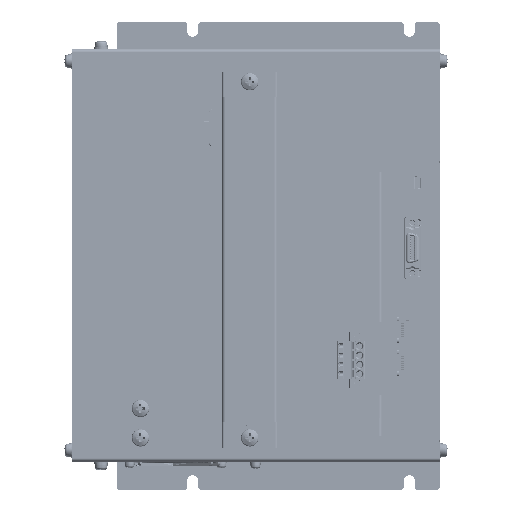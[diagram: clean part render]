
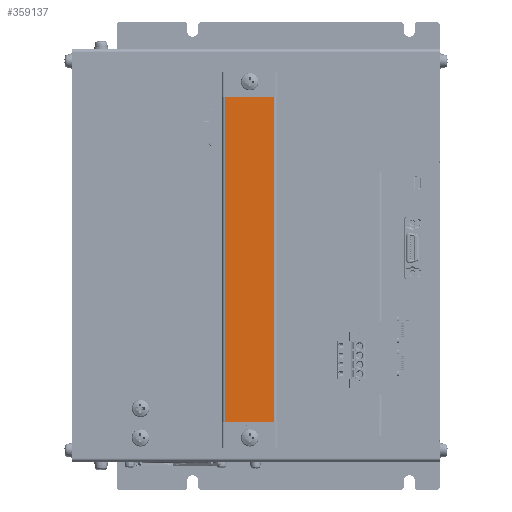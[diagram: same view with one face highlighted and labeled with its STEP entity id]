
A CAD part, top view. The second image highlights one B-rep face of the part: STEP entity #359137.
In plain terms, the highlighted planar face has unit normal (0, 0, 1).
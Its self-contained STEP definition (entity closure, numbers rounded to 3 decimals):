
#8743 = EDGE_CURVE ( 'NONE', #175309, #256099, #35312, .T. ) ;
#12718 = CARTESIAN_POINT ( 'NONE',  ( -98.925, -75.562, 394. ) ) ;
#35312 = LINE ( 'NONE', #12718, #272513 ) ;
#36958 = CARTESIAN_POINT ( 'NONE',  ( -98.925, -75.562, 394. ) ) ;
#38841 = ORIENTED_EDGE ( 'NONE', *, *, #62368, .T. ) ;
#39092 = PLANE ( 'NONE',  #118358 ) ;
#42128 = VECTOR ( 'NONE', #149940, 1000. ) ;
#62368 = EDGE_CURVE ( 'NONE', #102245, #276919, #314173, .T. ) ;
#62828 = DIRECTION ( 'NONE',  ( 0., -1., 0. ) ) ;
#62930 = DIRECTION ( 'NONE',  ( -1., 0., 0. ) ) ;
#94399 = DIRECTION ( 'NONE',  ( 0., -1., 0. ) ) ;
#102245 = VERTEX_POINT ( 'NONE', #231900 ) ;
#115692 = CARTESIAN_POINT ( 'NONE',  ( -125.725, -75.562, 394. ) ) ;
#118358 = AXIS2_PLACEMENT_3D ( 'NONE', #261341, #204877, #94399 ) ;
#149940 = DIRECTION ( 'NONE',  ( 1., 0., 0. ) ) ;
#153892 = DIRECTION ( 'NONE',  ( 0., 1., 0. ) ) ;
#160455 = VECTOR ( 'NONE', #62828, 1000. ) ;
#171166 = EDGE_LOOP ( 'NONE', ( #38841, #279498, #210668, #215022 ) ) ;
#175309 = VERTEX_POINT ( 'NONE', #294743 ) ;
#189269 = FACE_OUTER_BOUND ( 'NONE', #171166, .T. ) ;
#194064 = CARTESIAN_POINT ( 'NONE',  ( -98.925, 101.438, 394. ) ) ;
#204877 = DIRECTION ( 'NONE',  ( 0., 0., 1. ) ) ;
#210668 = ORIENTED_EDGE ( 'NONE', *, *, #8743, .T. ) ;
#215022 = ORIENTED_EDGE ( 'NONE', *, *, #277113, .T. ) ;
#231900 = CARTESIAN_POINT ( 'NONE',  ( -125.725, 101.438, 394. ) ) ;
#235785 = LINE ( 'NONE', #318386, #253459 ) ;
#253459 = VECTOR ( 'NONE', #62930, 1000. ) ;
#256099 = VERTEX_POINT ( 'NONE', #194064 ) ;
#261341 = CARTESIAN_POINT ( 'NONE',  ( -98.925, -75.562, 394. ) ) ;
#272513 = VECTOR ( 'NONE', #153892, 1000. ) ;
#276879 = CARTESIAN_POINT ( 'NONE',  ( -125.725, -75.562, 394. ) ) ;
#276919 = VERTEX_POINT ( 'NONE', #276879 ) ;
#277113 = EDGE_CURVE ( 'NONE', #256099, #102245, #235785, .T. ) ;
#279498 = ORIENTED_EDGE ( 'NONE', *, *, #315373, .T. ) ;
#294743 = CARTESIAN_POINT ( 'NONE',  ( -98.925, -75.562, 394. ) ) ;
#314173 = LINE ( 'NONE', #115692, #160455 ) ;
#315373 = EDGE_CURVE ( 'NONE', #276919, #175309, #318790, .T. ) ;
#318386 = CARTESIAN_POINT ( 'NONE',  ( -98.925, 101.438, 394. ) ) ;
#318790 = LINE ( 'NONE', #36958, #42128 ) ;
#359137 = ADVANCED_FACE ( 'NONE', ( #189269 ), #39092, .T. ) ;
